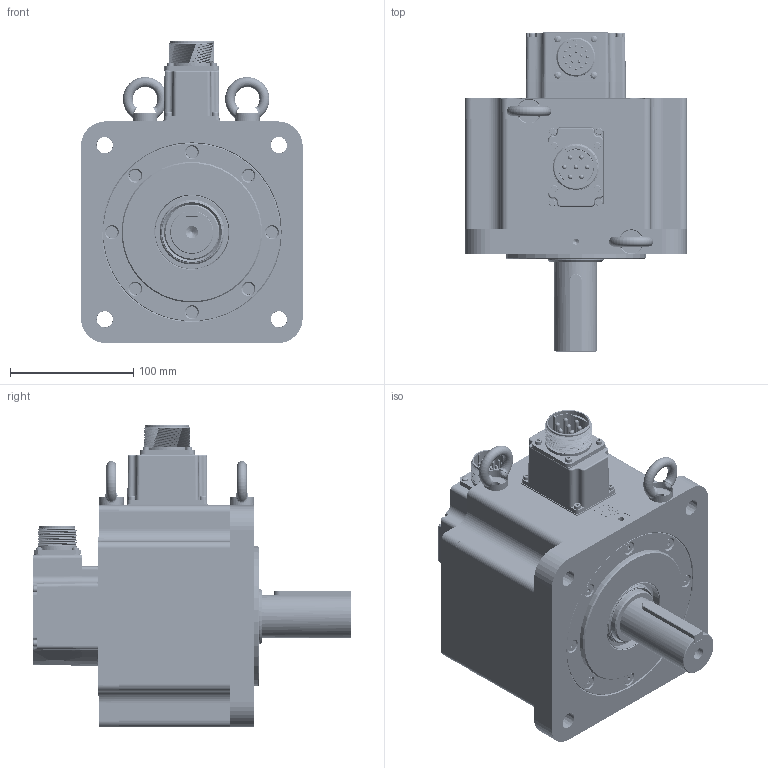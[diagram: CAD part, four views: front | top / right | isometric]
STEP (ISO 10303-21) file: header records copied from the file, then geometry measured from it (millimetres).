
FILE_DESCRIPTION(/* description */ ('AdapterTestApp'),/* implementation_level */ '2;1');
FILE_NAME(/* name */ 'TCE180 6A XX 3 A1 0 C3',/* time_stamp */ '2015-09-11T16:39:11+02:00',/* author */ ('AdapterTestApp'),/* organization */ ('Siemens PLM Software'),/* preprocessor_version */ 'ST-DEVELOPER v15.6',/* originating_system */ 'DEX',/* authorisation */ $);
FILE_SCHEMA (('AUTOMOTIVE_DESIGN {1 0 10303 214 3 1 1}'));
Products named in the file (35): TCE180 6A XX 3 A1 0 C3_vuoto; 003251022004; 005123001580; 005911000216; 003103001503; 005911000493; 005911000479; 005204000003; 005123001110; 005204000001; back cover TCE100 + CN MIL; 001107000620; 003303000373; 005911000525; 003108015154; 005204000002; 005119001104; N0180024; 005911000006; 005321000010; 003251022003; 005008000953; U5180001_vuoto; 003120002506; 003303000370; cap-M3 nudo; 005911000190; 003799000581; 005911000201; 003303000372; 007117001752; 005008000664; 005008000690; 003155002050; 005113001070
Assembly tree (66 placements, depth 3):
  TCE180 6A XX 3 A1 0 C3_vuoto
    003251022004
    005123001580
    005911000216  x4
    003103001503
    005911000493  x4
    005911000479  x8
    005204000003
    005123001110
    005204000001
    back cover TCE100 + CN MIL
      001107000620
      003303000373
      005911000525  x4
      003108015154
    005204000002
    005119001104
    N0180024
    005911000006  x8
    005321000010  x2
    003251022003
    005008000953
    U5180001_vuoto
      003120002506
      003303000370
      cap-M3 nudo
      005911000190
      003799000581
      005911000201  x8
      003303000372
      007117001752
    005008000664
    005008000690  x2
    003155002050
    005113001070
Bounding box: 180.3 x 259 x 245.3 mm (x, y, z)
Volume: 2322497.8 mm3; surface area: 611769.5 mm2
Topology: 80 solids, 87 shells, 2845 faces, 6979 edges, 4473 vertices
Faces by surface type: plane 1378, cylinder 708, cone 222, torus 183, bspline 182, extrusion 88, sphere 82, revolution 2
Full cylindrical faces by diameter (mm): 1.423 x1, 1.523 x1, 2 x34, 2.163 x1, 2.459 x21, 2.5 x1, 2.6 x1, 2.9 x4, 3 x30, 3.048 x4, 3.2 x1, 3.242 x6, 3.5 x15, 3.6 x7, 3.7 x4, 4 x9, 4.134 x24, 4.4 x15, 4.7 x8, 4.917 x2, 5 x16, 5.3 x1, 5.5 x15, 5.6 x4, 6 x7, 6.6 x6, 6.647 x22, 7 x8, 7.2 x1, 8 x16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
Entity records: 85655 total; most frequent: CARTESIAN_POINT 32657, DIRECTION 10480, ORIENTED_EDGE 10062, EDGE_CURVE 5031, AXIS2_PLACEMENT_3D 3908, VERTEX_POINT 3577, FACE_BOUND 3340, EDGE_LOOP 3280
